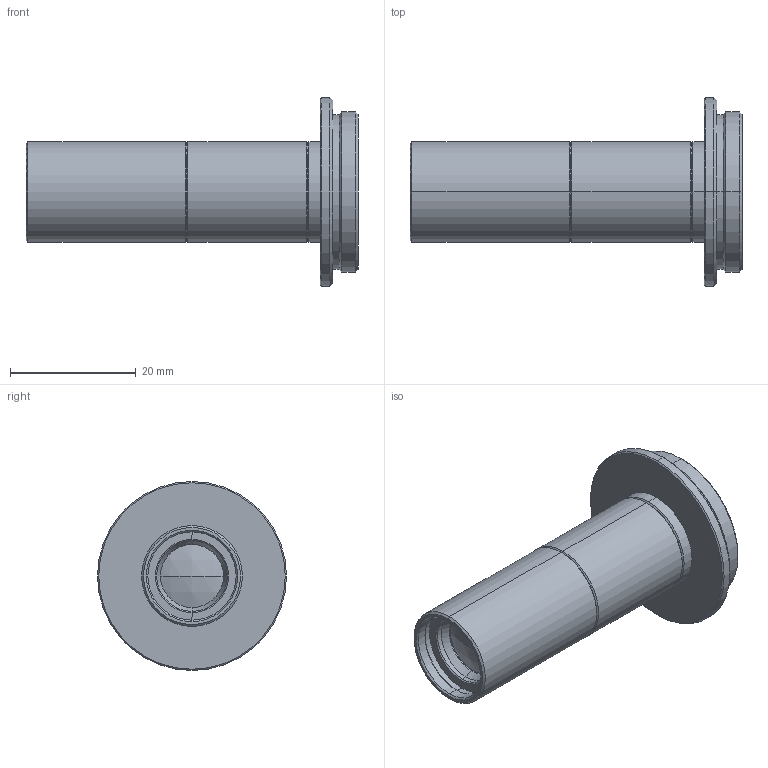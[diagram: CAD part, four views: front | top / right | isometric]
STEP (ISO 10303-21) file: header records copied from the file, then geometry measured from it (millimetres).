
FILE_DESCRIPTION (( 'STEP AP214' ), '1' );
FILE_NAME ('VS-MC1-40.STEP', '2019-11-19T00:22:07', ( '' ), ( '' ), 'SwSTEP 2.0', 'SolidWorks 2017', '' );
FILE_SCHEMA (( 'AUTOMOTIVE_DESIGN' ));
Length unit declared in the file: millimetre
Products named in the file (1): VS-MC1-40
Bounding box: 52.7 x 30 x 30 mm (x, y, z)
Volume: 7376.4 mm3; surface area: 5946.1 mm2
Topology: 1 solids, 1 shells, 87 faces, 176 edges, 100 vertices
Faces by surface type: cone 42, cylinder 32, plane 9, sphere 4
Entity records: 2290 total; most frequent: DIRECTION 454, CARTESIAN_POINT 364, ORIENTED_EDGE 352, AXIS2_PLACEMENT_3D 190, EDGE_CURVE 176, CIRCLE 102, VERTEX_POINT 100, EDGE_LOOP 96
